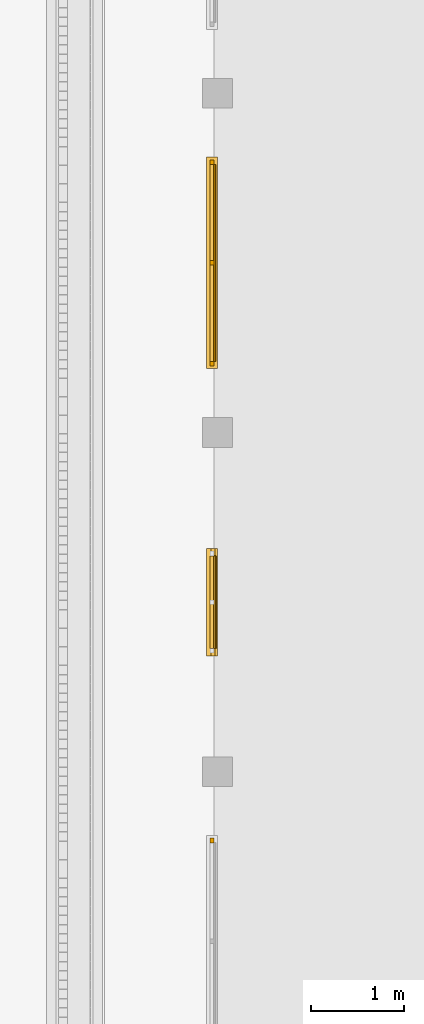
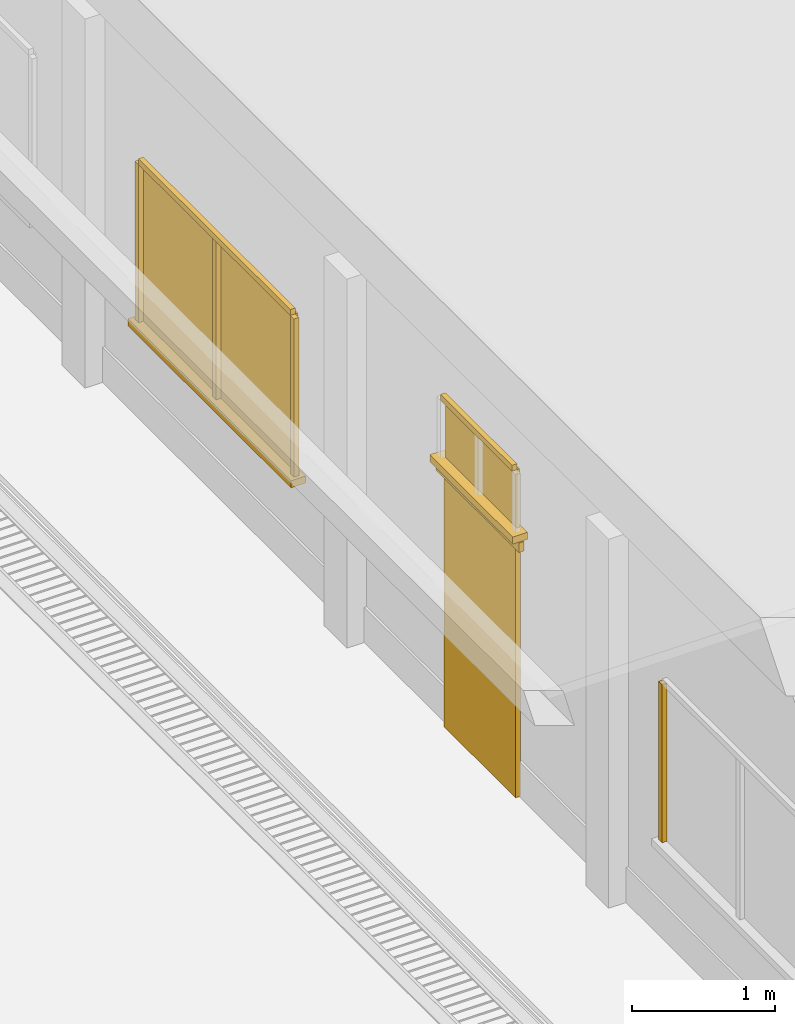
# One storey, part 51 of 166: 10 windows, 2 doors.
"""IFC2X3 building model written with IfcOpenShell, lengths in metres."""

from ifc_helpers import new_model, si_unit, origin, origin_with_axes, place, context, subcontext, project, spatial, faceted_brep, element, save


model = new_model("IFC2X3")

# Units and contexts
model_context = context("Model", 3, precision=1e-05, world=origin_with_axes())
body_context = subcontext(model_context, "Body", "Model", "MODEL_VIEW")
ifc_project = project(units=[si_unit("LENGTHUNIT", "METRE"), si_unit("AREAUNIT", "SQUARE_METRE"), si_unit("VOLUMEUNIT", "CUBIC_METRE"), si_unit("PLANEANGLEUNIT", "RADIAN")], contexts=[model_context])

# Site, building, storey
site_placement = place(None, origin_with_axes())
site = spatial("IfcSite", under=ifc_project, at=site_placement, Name="Predio Los Mangos - Morales, San Martín", CompositionType="ELEMENT")
building_placement = place(site_placement, origin())
building = spatial("IfcBuilding", under=site, at=building_placement, Name="Hogar de Refugio Temporal", CompositionType="ELEMENT")
storey_placement = place(building_placement, origin())
storey = spatial("IfcBuildingStorey", under=building, at=storey_placement, Name="NIVEL 1 (NPT +0.00)", CompositionType="ELEMENT", Elevation=0.0)

# Window
window_1_placement = place(storey_placement, origin())
element("IfcWindow", 1, at=window_1_placement, inside=storey, Name="E-05_v3_m", ObjectType="Ventana", context=body_context, shape_type="Brep", body=[
    faceted_brep([(45.22, 71.7809, 1.05), (45.22, 71.8309, 1.05), (45.26, 71.8309, 1.05), (45.26, 71.7809, 1.05), (45.22, 71.7809, 2.4), (45.26, 71.7809, 2.4), (45.26, 71.8309, 2.4), (45.22, 71.8309, 2.4)], [[[0, 1, 2, 3]], [[4, 5, 6, 7]], [[0, 3, 5, 4]], [[3, 2, 6, 5]], [[2, 1, 7, 6]], [[1, 0, 4, 7]]]),
])

# Doors
door_1_placement = place(storey_placement, origin())
element("IfcDoor", 2, at=door_1_placement, inside=storey, Name="E-05_p4", ObjectType="Puerta", context=body_context, shape_type="Brep", body=[
    faceted_brep([(45.25, 73.8812, 0.15), (45.25, 74.8812, 0.15), (45.29, 74.8812, 0.15), (45.29, 73.8812, 0.15), (45.25, 73.8812, 2.3), (45.29, 73.8812, 2.3), (45.29, 74.8812, 2.3), (45.25, 74.8812, 2.3)], [[[0, 1, 2, 3]], [[4, 5, 6, 7]], [[0, 3, 5, 4]], [[3, 2, 6, 5]], [[2, 1, 7, 6]], [[1, 0, 4, 7]]]),
])
door_2_placement = place(storey_placement, origin())
element("IfcDoor", 3, at=door_2_placement, inside=storey, Name="E-05_p4_marco", ObjectType="Puerta", context=body_context, shape_type="Brep", body=[
    faceted_brep([(45.23, 73.8012, 2.3), (45.23, 74.9613, 2.3), (45.27, 74.9613, 2.3), (45.27, 73.8012, 2.3), (45.23, 73.8012, 2.38), (45.27, 73.8012, 2.38), (45.27, 74.9613, 2.38), (45.23, 74.9613, 2.38)], [[[0, 1, 2, 3]], [[4, 5, 6, 7]], [[0, 3, 5, 4]], [[3, 2, 6, 5]], [[2, 1, 7, 6]], [[1, 0, 4, 7]]]),
])

# Windows
window_2_placement = place(storey_placement, origin())
element("IfcWindow", 4, at=window_2_placement, inside=storey, Name="E-05_vt4_vid", ObjectType="Ventana", context=body_context, shape_type="Brep", body=[
    faceted_brep([(45.26, 73.8812, 2.45), (45.26, 74.8812, 2.45), (45.28, 74.8812, 2.45), (45.28, 73.8812, 2.45), (45.26, 73.8812, 2.95), (45.28, 73.8812, 2.95), (45.28, 74.8812, 2.95), (45.26, 74.8812, 2.95)], [[[0, 1, 2, 3]], [[4, 5, 6, 7]], [[0, 3, 5, 4]], [[3, 2, 6, 5]], [[2, 1, 7, 6]], [[1, 0, 4, 7]]]),
])
window_3_placement = place(storey_placement, origin())
element("IfcWindow", 5, at=window_3_placement, inside=storey, Name="E-05_vt4_m", ObjectType="Ventana", context=body_context, shape_type="Brep", body=[
    faceted_brep([(45.22, 73.8812, 2.95), (45.22, 74.8812, 2.95), (45.26, 74.8812, 2.95), (45.26, 73.8812, 2.95), (45.22, 73.8812, 3.0), (45.26, 73.8812, 3.0), (45.26, 74.8812, 3.0), (45.22, 74.8812, 3.0)], [[[0, 1, 2, 3]], [[4, 5, 6, 7]], [[0, 3, 5, 4]], [[3, 2, 6, 5]], [[2, 1, 7, 6]], [[1, 0, 4, 7]]]),
])
window_4_placement = place(storey_placement, origin())
element("IfcWindow", 6, at=window_4_placement, inside=storey, Name="E-05_vt4_alf", ObjectType="Ventana", context=body_context, shape_type="Brep", body=[
    faceted_brep([(45.3, 73.8012, 2.39), (45.3, 74.9613, 2.39), (45.18, 74.9613, 2.39), (45.18, 73.8012, 2.39), (45.3, 73.8012, 2.45), (45.18, 73.8012, 2.45), (45.18, 74.9613, 2.45), (45.3, 74.9613, 2.45)], [[[0, 1, 2, 3]], [[4, 5, 6, 7]], [[0, 3, 5, 4]], [[3, 2, 6, 5]], [[2, 1, 7, 6]], [[1, 0, 4, 7]]]),
])
window_5_placement = place(storey_placement, origin())
element("IfcWindow", 7, at=window_5_placement, inside=storey, Name="E-05_v5_vid", ObjectType="Ventana", context=body_context, shape_type="Brep", body=[
    faceted_brep([(45.26, 76.9816, 1.05), (45.26, 79.1059, 1.05), (45.28, 79.1059, 1.05), (45.28, 76.9816, 1.05), (45.26, 76.9816, 2.4), (45.28, 76.9816, 2.4), (45.28, 79.1059, 2.4), (45.26, 79.1059, 2.4)], [[[0, 1, 2, 3]], [[4, 5, 6, 7]], [[0, 3, 5, 4]], [[3, 2, 6, 5]], [[2, 1, 7, 6]], [[1, 0, 4, 7]]]),
])
window_6_placement = place(storey_placement, origin())
element("IfcWindow", 8, at=window_6_placement, inside=storey, Name="E-05_v5_m", ObjectType="Ventana", context=body_context, shape_type="Brep", body=[
    faceted_brep([(45.22, 76.9316, 1.05), (45.22, 76.9816, 1.05), (45.26, 76.9816, 1.05), (45.26, 76.9316, 1.05), (45.22, 76.9316, 2.4), (45.26, 76.9316, 2.4), (45.26, 76.9816, 2.4), (45.22, 76.9816, 2.4)], [[[0, 1, 2, 3]], [[4, 5, 6, 7]], [[0, 3, 5, 4]], [[3, 2, 6, 5]], [[2, 1, 7, 6]], [[1, 0, 4, 7]]]),
])
window_7_placement = place(storey_placement, origin())
element("IfcWindow", 9, at=window_7_placement, inside=storey, Name="E-05_v5_m", ObjectType="Ventana", context=body_context, shape_type="Brep", body=[
    faceted_brep([(45.22, 79.1059, 1.05), (45.22, 79.1559, 1.05), (45.26, 79.1559, 1.05), (45.26, 79.1059, 1.05), (45.22, 79.1059, 2.4), (45.26, 79.1059, 2.4), (45.26, 79.1559, 2.4), (45.22, 79.1559, 2.4)], [[[0, 1, 2, 3]], [[4, 5, 6, 7]], [[0, 3, 5, 4]], [[3, 2, 6, 5]], [[2, 1, 7, 6]], [[1, 0, 4, 7]]]),
])
window_8_placement = place(storey_placement, origin())
element("IfcWindow", 10, at=window_8_placement, inside=storey, Name="E-05_v5_m", ObjectType="Ventana", context=body_context, shape_type="Brep", body=[
    faceted_brep([(45.22, 76.9816, 2.4), (45.22, 79.1059, 2.4), (45.26, 79.1059, 2.4), (45.26, 76.9816, 2.4), (45.22, 76.9816, 2.45), (45.26, 76.9816, 2.45), (45.26, 79.1059, 2.45), (45.22, 79.1059, 2.45)], [[[0, 1, 2, 3]], [[4, 5, 6, 7]], [[0, 3, 5, 4]], [[3, 2, 6, 5]], [[2, 1, 7, 6]], [[1, 0, 4, 7]]]),
])
window_9_placement = place(storey_placement, origin())
element("IfcWindow", 11, at=window_9_placement, inside=storey, Name="E-05_v5_m", ObjectType="Ventana", context=body_context, shape_type="Brep", body=[
    faceted_brep([(45.22, 78.0188, 1.05), (45.22, 78.0687, 1.05), (45.26, 78.0687, 1.05), (45.26, 78.0188, 1.05), (45.22, 78.0188, 2.4), (45.26, 78.0188, 2.4), (45.26, 78.0687, 2.4), (45.22, 78.0687, 2.4)], [[[0, 1, 2, 3]], [[4, 5, 6, 7]], [[0, 3, 5, 4]], [[3, 2, 6, 5]], [[2, 1, 7, 6]], [[1, 0, 4, 7]]]),
])
window_10_placement = place(storey_placement, origin())
element("IfcWindow", 12, at=window_10_placement, inside=storey, Name="E-05_v5_alf", ObjectType="Ventana", context=body_context, shape_type="Brep", body=[
    faceted_brep([(45.3, 76.9016, 0.99), (45.3, 79.1859, 0.99), (45.18, 79.1859, 0.99), (45.18, 76.9016, 0.99), (45.3, 76.9016, 1.05), (45.18, 76.9016, 1.05), (45.18, 79.1859, 1.05), (45.3, 79.1859, 1.05)], [[[0, 1, 2, 3]], [[4, 5, 6, 7]], [[0, 3, 5, 4]], [[3, 2, 6, 5]], [[2, 1, 7, 6]], [[1, 0, 4, 7]]]),
])

save(model, "model.ifc")
